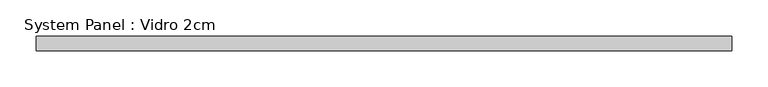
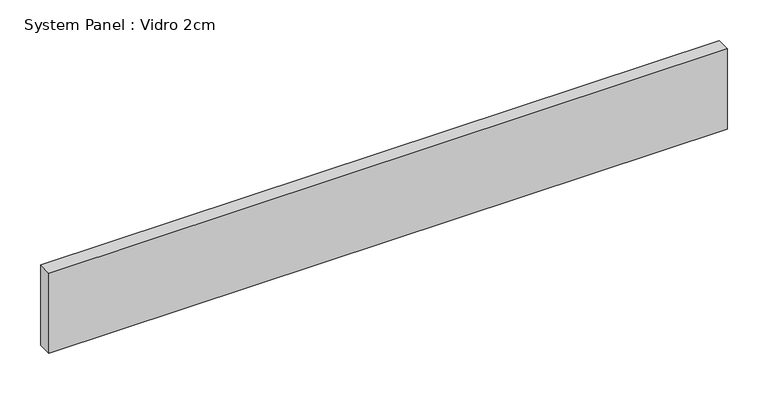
"""IFC4 building model written with IfcOpenShell, lengths in millimetres: plate geometry, System Panel : Vidro 2cm."""

from ifc_helpers import new_model, si_unit, origin, origin_with_axes, place, context, project, spatial, polyline, outline, extrude, source, transform, mapped, element, save


def system_panel_vidro_2cm_b9699863(model_context):
    return source(origin(), model_context, "Body", "SweptSolid", [
        extrude(outline(polyline([(480.0000002, -20.0), (-480.0000002, -20.0), (-480.0000002, 0.0), (480.0000002, 0.0), (480.0000002, -20.0)])), origin_with_axes(), (0.0, 0.0, 1.0), 120.0),
    ])


if __name__ == "__main__":
    model = new_model("IFC4")
    model_context = context("Model", 3, world=origin())
    ifc_project = project(units=[si_unit("LENGTHUNIT", "METRE", prefix="MILLI")], contexts=[model_context])
    site = spatial("IfcSite", under=ifc_project)
    building = spatial("IfcBuilding", under=site)
    placement = place(None, origin())
    system_panel_vidro_2cm_shape = system_panel_vidro_2cm_b9699863(model_context)
    element("IfcPlate", 1, ObjectType="System Panel : Vidro 2cm", at=placement, inside=building, context=model_context, shape_type="MappedRepresentation", body=[
        mapped(system_panel_vidro_2cm_shape, transform((0.0, 0.0, 0.0), x_axis=(1.0, 0.0, 0.0), y_axis=(0.0, 1.0, 0.0), z_axis=(0.0, 0.0, 1.0))),
    ])
    save(model, "model.ifc")
